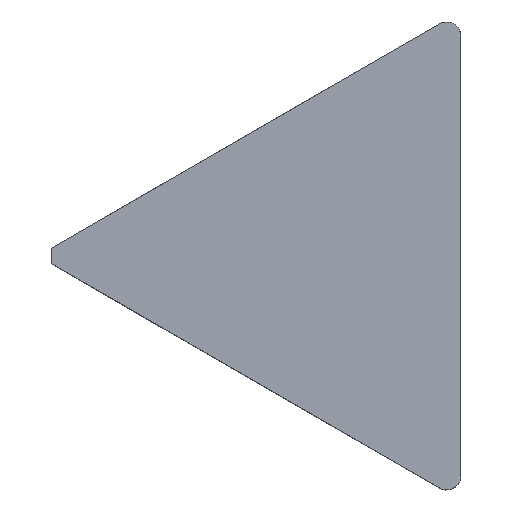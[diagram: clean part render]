
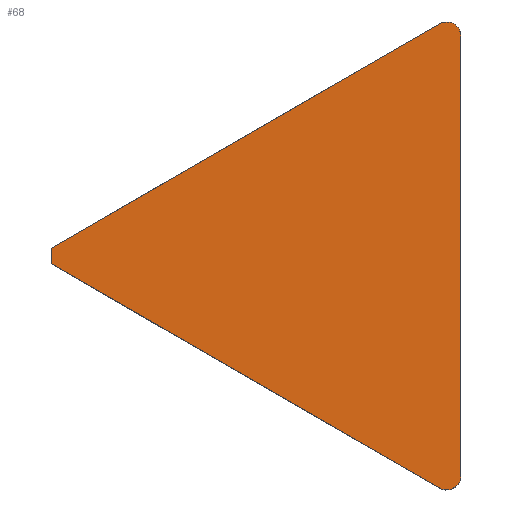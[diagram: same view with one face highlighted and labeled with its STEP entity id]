
A CAD part, top view. The second image highlights one B-rep face of the part: STEP entity #68.
In plain terms, the highlighted planar face has unit normal (0, 0, 1).
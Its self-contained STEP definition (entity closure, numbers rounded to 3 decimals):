
#68=ADVANCED_FACE('',(#129),#1065,.T.);
#129=FACE_OUTER_BOUND('',#191,.T.);
#191=EDGE_LOOP('',(#500,#501,#502,#503,#504,#505));
#500=ORIENTED_EDGE('',*,*,#548,.F.);
#501=ORIENTED_EDGE('',*,*,#562,.F.);
#502=ORIENTED_EDGE('',*,*,#670,.F.);
#503=ORIENTED_EDGE('',*,*,#660,.F.);
#504=ORIENTED_EDGE('',*,*,#655,.F.);
#505=ORIENTED_EDGE('',*,*,#693,.T.);
#548=EDGE_CURVE('',#896,#897,#776,.T.);
#562=EDGE_CURVE('',#909,#896,#788,.T.);
#655=EDGE_CURVE('',#983,#984,#754,.T.);
#660=EDGE_CURVE('',#984,#989,#854,.T.);
#670=EDGE_CURVE('',#989,#909,#758,.T.);
#693=EDGE_CURVE('',#983,#897,#870,.T.);
#754=(
BOUNDED_CURVE()
B_SPLINE_CURVE(2,(#3329,#3330,#3331,#3332,#3333),.UNSPECIFIED.,.F.,.F.)
B_SPLINE_CURVE_WITH_KNOTS((3,2,3),(0.,0.209,0.419),
 .UNSPECIFIED.)
CURVE()
GEOMETRIC_REPRESENTATION_ITEM()
RATIONAL_B_SPLINE_CURVE((1.,0.866,1.,0.866,1.))
REPRESENTATION_ITEM('')
);
#758=(
BOUNDED_CURVE()
B_SPLINE_CURVE(2,(#3367,#3368,#3369,#3370,#3371),.UNSPECIFIED.,.F.,.F.)
B_SPLINE_CURVE_WITH_KNOTS((3,2,3),(0.,0.209,0.419),
 .UNSPECIFIED.)
CURVE()
GEOMETRIC_REPRESENTATION_ITEM()
RATIONAL_B_SPLINE_CURVE((1.,0.866,1.,0.866,1.))
REPRESENTATION_ITEM('')
);
#776=B_SPLINE_CURVE_WITH_KNOTS('',1,(#2889,#2890),.UNSPECIFIED.,.F.,.F.,
(2,2),(0.,0.22),.UNSPECIFIED.);
#788=B_SPLINE_CURVE_WITH_KNOTS('',1,(#2919,#2920),.UNSPECIFIED.,.F.,.F.,
(2,2),(0.,6.362),.UNSPECIFIED.);
#854=B_SPLINE_CURVE_WITH_KNOTS('',1,(#3345,#3346),.UNSPECIFIED.,.F.,.F.,
(2,2),(0.,6.235),.UNSPECIFIED.);
#870=B_SPLINE_CURVE_WITH_KNOTS('',1,(#3434,#3435),.UNSPECIFIED.,.F.,.F.,
(2,2),(-6.362,0.),.UNSPECIFIED.);
#896=VERTEX_POINT('',#2773);
#897=VERTEX_POINT('',#2774);
#909=VERTEX_POINT('',#2786);
#983=VERTEX_POINT('',#2860);
#984=VERTEX_POINT('',#2861);
#989=VERTEX_POINT('',#2866);
#1065=PLANE('',#1113);
#1113=AXIS2_PLACEMENT_3D('',#2747,#1144,$);
#1144=DIRECTION('',(0.,0.,1.));
#2747=CARTESIAN_POINT('',(-43.916,-40.196,10.));
#2773=CARTESIAN_POINT('',(-38.095,-1.1,10.));
#2774=CARTESIAN_POINT('',(-38.095,1.1,10.));
#2786=CARTESIAN_POINT('',(17.,-32.909,10.));
#2860=CARTESIAN_POINT('',(17.,32.909,10.));
#2861=CARTESIAN_POINT('',(20.,31.177,10.));
#2866=CARTESIAN_POINT('',(20.,-31.177,10.));
#2889=CARTESIAN_POINT('',(-38.095,-1.1,10.));
#2890=CARTESIAN_POINT('',(-38.095,1.1,10.));
#2919=CARTESIAN_POINT('',(17.,-32.909,10.));
#2920=CARTESIAN_POINT('',(-38.095,-1.1,10.));
#3329=CARTESIAN_POINT('',(17.,32.909,10.));
#3330=CARTESIAN_POINT('',(18.,33.486,10.));
#3331=CARTESIAN_POINT('',(19.,32.909,10.));
#3332=CARTESIAN_POINT('',(20.,32.332,10.));
#3333=CARTESIAN_POINT('',(20.,31.177,10.));
#3345=CARTESIAN_POINT('',(20.,31.177,10.));
#3346=CARTESIAN_POINT('',(20.,-31.177,10.));
#3367=CARTESIAN_POINT('',(20.,-31.177,10.));
#3368=CARTESIAN_POINT('',(20.,-32.332,10.));
#3369=CARTESIAN_POINT('',(19.,-32.909,10.));
#3370=CARTESIAN_POINT('',(18.,-33.486,10.));
#3371=CARTESIAN_POINT('',(17.,-32.909,10.));
#3434=CARTESIAN_POINT('',(17.,32.909,10.));
#3435=CARTESIAN_POINT('',(-38.095,1.1,10.));
